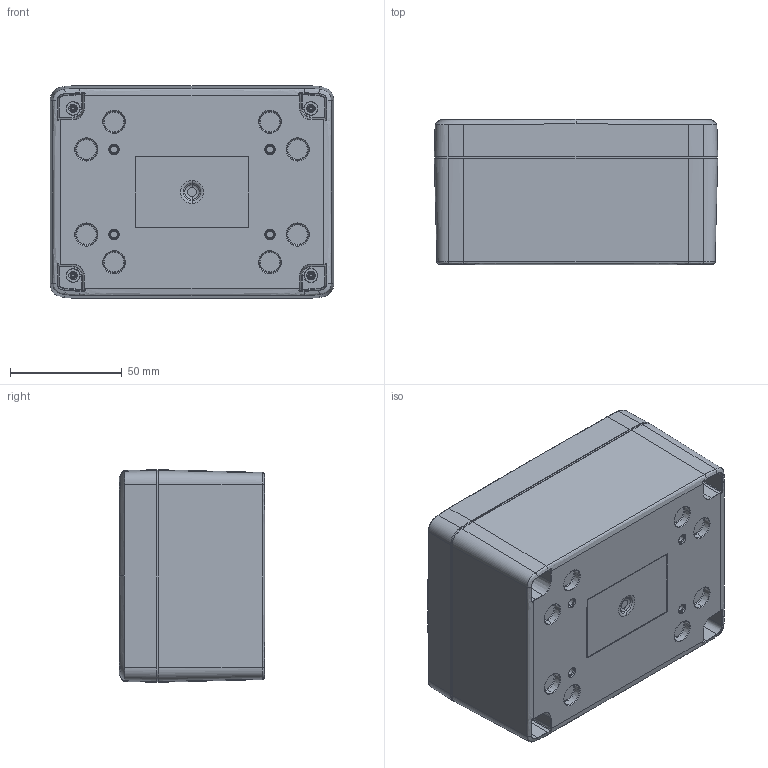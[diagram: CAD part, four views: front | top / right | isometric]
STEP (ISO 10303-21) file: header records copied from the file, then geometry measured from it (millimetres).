
FILE_DESCRIPTION (( 'STEP AP214' ), '1' );
FILE_NAME ('HN-45-13.STEP', '2026-02-23T17:56:20', ( '' ), ( '' ), 'SwSTEP 2.0', 'SolidWorks 2025', '' );
FILE_SCHEMA (( 'AUTOMOTIVE_DESIGN' ));
Length unit declared in the file: inch
Products named in the file (9): HN-45B_HN-45BP-00; HN-45CG_HN-45CG-00; HN-45-13; HN-45BN_HN-45BPN-00; LABEL-107; HN-45G_default; HN-45C_HN-45C-00; SCREWS-054_DEFAULT; INSERTS-3_INSERTS-3
Assembly tree (14 placements, depth 3):
  HN-45-13
    HN-45B_HN-45BP-00
      HN-45BN_HN-45BPN-00
      INSERTS-3_INSERTS-3  x4
      LABEL-107
    HN-45CG_HN-45CG-00
      HN-45C_HN-45C-00
      HN-45G_default
    SCREWS-054_DEFAULT  x4
Bounding box: 127 x 65.26 x 95.25 mm (x, y, z)
Volume: 187498.2 mm3; surface area: 129039.8 mm2
Topology: 11 solids, 13 shells, 3818 faces, 9124 edges, 5324 vertices
Faces by surface type: torus 948, cone 868, bspline 776, cylinder 631, plane 521, sphere 74
Entity records: 128210 total; most frequent: CARTESIAN_POINT 56951, ORIENTED_EDGE 15726, DIRECTION 14216, EDGE_CURVE 7866, AXIS2_PLACEMENT_3D 6246, VERTEX_POINT 4650, CIRCLE 3607, EDGE_LOOP 3389
